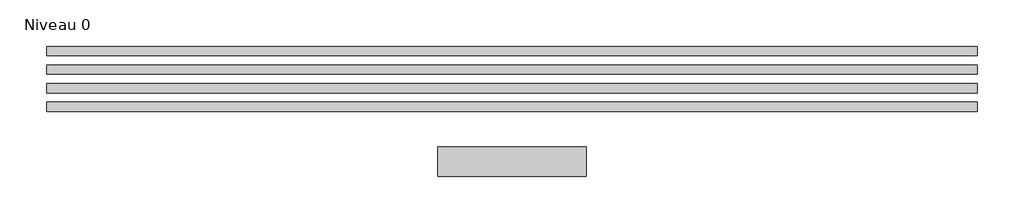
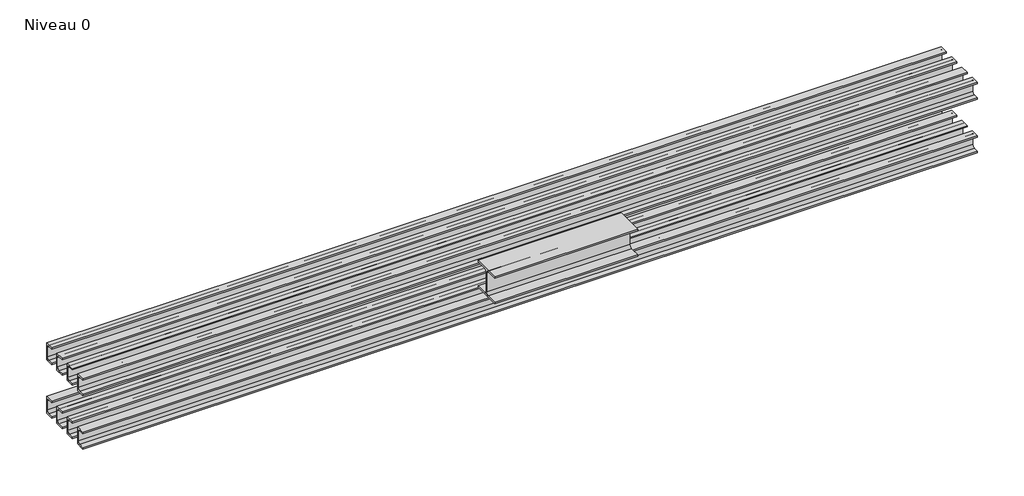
# One storey: 9 beams.
"""IFC4 building model written with IfcOpenShell, lengths in millimetres."""

import ifcopenshell
import ifcopenshell.guid

model = None  # the IFC model being written
_history = None  # IfcOwnerHistory: only IFC2X3 demands one
_inside = {}  # id of a spatial element -> (the spatial element, [elements in it])
_under = {}  # id of a project, library or spatial element -> (it, [spatial elements below it])
_declared = {}  # id of a project -> (the project, [libraries it declares])
_typed = {}  # id of a type object -> (the type object, [elements of that type])
_made_of = {}  # id of a material, layer set ... -> (it, [elements and type objects made of it])


def new_model(schema):
    """Start an empty IFC model of exactly this schema.

    Asked for "IFC4X3", IfcOpenShell would pick the latest addendum, in which some entities
    have other attributes; the version numbers below select the first issue.
    IFC2X3 requires an IfcOwnerHistory on every rooted entity: one is made here for all.
    """
    global model, _history
    if schema == "IFC4X3":
        model = ifcopenshell.file(schema_version=(4, 3, 0, 0))
    else:
        model = ifcopenshell.file(schema=schema)
    _inside.clear()
    _under.clear()
    _declared.clear()
    _typed.clear()
    _made_of.clear()
    _history = None
    if model.schema == "IFC2X3":
        org = make("IfcOrganization", Name="unknown")
        user = make(
            "IfcPersonAndOrganization",
            ThePerson=make("IfcPerson", FamilyName="unknown"),
            TheOrganization=org,
        )
        app = make(
            "IfcApplication",
            ApplicationDeveloper=org,
            Version="unknown",
            ApplicationFullName="unknown",
            ApplicationIdentifier="unknown",
        )
        _history = make(
            "IfcOwnerHistory",
            OwningUser=user,
            OwningApplication=app,
            ChangeAction="ADDED",
            CreationDate=0,
        )
    return model


def make(cls, **values):
    """One entity of the class cls with the attributes given. An attribute that is None is left unset."""
    return model.create_entity(
        cls, **{name: value for name, value in values.items() if value is not None}
    )


def rooted(cls, **values):
    """An entity with a GlobalId (a new one), such as an element, a storey or a relation."""
    return make(cls, GlobalId=ifcopenshell.guid.new(), OwnerHistory=_history, **values)


def si_unit(unit_type, name, prefix=None):
    """IfcSIUnit, for example si_unit("LENGTHUNIT", "METRE", prefix="MILLI")."""
    return make("IfcSIUnit", UnitType=unit_type, Prefix=prefix, Name=name)


def assignment(units):
    """IfcUnitAssignment: the units of a project."""
    return None if units is None else make("IfcUnitAssignment", Units=units)


def point(xyz):
    """IfcCartesianPoint."""
    return None if xyz is None else make("IfcCartesianPoint", Coordinates=xyz)


def direction(xyz):
    """IfcDirection."""
    return None if xyz is None else make("IfcDirection", DirectionRatios=xyz)


def frame(location, z_axis=None, x_axis=None):
    """IfcAxis2Placement3D, a coordinate frame: its origin and axes. An axis left out is left unset."""
    return make(
        "IfcAxis2Placement3D",
        Location=point(location),
        Axis=direction(z_axis),
        RefDirection=direction(x_axis),
    )


def frame_2d(location, x_axis=None):
    """IfcAxis2Placement2D, a coordinate frame in the plane: its origin and x axis."""
    return make(
        "IfcAxis2Placement2D", Location=point(location), RefDirection=direction(x_axis)
    )


def origin():
    """The frame at (0, 0, 0) with its axes left unset."""
    return frame((0.0, 0.0, 0.0))


def place(relative_to, where):
    """IfcLocalPlacement: puts the frame where relative to a parent placement (None: the world)."""
    return make(
        "IfcLocalPlacement", PlacementRelTo=relative_to, RelativePlacement=where
    )


def context(
    kind, dimensions, precision=None, world=None, true_north=None, identifier=None
):
    """IfcGeometricRepresentationContext, for example the 3D "Model" context."""
    return make(
        "IfcGeometricRepresentationContext",
        ContextIdentifier=identifier,
        ContextType=kind,
        CoordinateSpaceDimension=dimensions,
        Precision=precision,
        WorldCoordinateSystem=world,
        TrueNorth=true_north,
    )


def project(units=None, contexts=None):
    """IfcProject with its units and contexts."""
    return rooted(
        "IfcProject",
        Name="project",
        RepresentationContexts=contexts,
        UnitsInContext=assignment(units),
    )


def spatial(cls, under=None, at=None, **own):
    """A site, building, storey or space (cls), placed at a placement, below another one or the project."""
    s = rooted(cls, ObjectPlacement=at, **own)
    if under is not None:
        _under.setdefault(under.id(), (under, []))[1].append(s)
    return s


def polyline(points):
    """IfcPolyline through the points."""
    return make("IfcPolyline", Points=[point(p) for p in points])


def circle_curve(where, radius):
    """IfcCircle in the frame where."""
    return make("IfcCircle", Position=where, Radius=radius)


def trimmed(basis, trim1, trim2, sense, master):
    """IfcTrimmedCurve: the piece of a basis curve between two trims."""
    return make(
        "IfcTrimmedCurve",
        BasisCurve=basis,
        Trim1=trim1,
        Trim2=trim2,
        SenseAgreement=sense,
        MasterRepresentation=master,
    )


def segment(curve, same_sense, transition):
    """IfcCompositeCurveSegment."""
    return make(
        "IfcCompositeCurveSegment",
        Transition=transition,
        SameSense=same_sense,
        ParentCurve=curve,
    )


def composite_curve(segments, self_intersect=None):
    """IfcCompositeCurve: segments joined end to end."""
    return make("IfcCompositeCurve", Segments=segments, SelfIntersect=self_intersect)


def outline(outer, holes=None, kind="AREA"):
    """IfcArbitraryClosedProfileDef: a profile drawn as a closed curve; with holes, ...WithVoids."""
    if holes is None:
        return make("IfcArbitraryClosedProfileDef", ProfileType=kind, OuterCurve=outer)
    return make(
        "IfcArbitraryProfileDefWithVoids",
        ProfileType=kind,
        OuterCurve=outer,
        InnerCurves=holes,
    )


def extrude(swept, where, along, depth):
    """IfcExtrudedAreaSolid: the profile swept, set in the frame where, extruded along a direction by depth."""
    return make(
        "IfcExtrudedAreaSolid",
        SweptArea=swept,
        Position=where,
        ExtrudedDirection=direction(along),
        Depth=depth,
    )


def shape(context_of_items, identifier, shape_type, items):
    """IfcShapeRepresentation: the items that make up one representation, for example the "Body"."""
    return make(
        "IfcShapeRepresentation",
        ContextOfItems=context_of_items,
        RepresentationIdentifier=identifier,
        RepresentationType=shape_type,
        Items=items,
    )


def source(mapping_origin, context_of_items, identifier, shape_type, items):
    """IfcRepresentationMap: a shape defined once, which mapped items show again and again."""
    return make(
        "IfcRepresentationMap",
        MappingOrigin=mapping_origin,
        MappedRepresentation=shape(context_of_items, identifier, shape_type, items),
    )


def transform(
    local_origin,
    x_axis=None,
    y_axis=None,
    z_axis=None,
    scale=None,
    scale2=None,
    scale3=None,
    uniform=True,
):
    """IfcCartesianTransformationOperator3D, or its non-uniform kind. x_axis, y_axis, z_axis: its Axis1, 2, 3."""
    if uniform:
        return make(
            "IfcCartesianTransformationOperator3D",
            Axis1=direction(x_axis),
            Axis2=direction(y_axis),
            LocalOrigin=point(local_origin),
            Scale=scale,
            Axis3=direction(z_axis),
        )
    return make(
        "IfcCartesianTransformationOperator3DnonUniform",
        Axis1=direction(x_axis),
        Axis2=direction(y_axis),
        LocalOrigin=point(local_origin),
        Scale=scale,
        Axis3=direction(z_axis),
        Scale2=scale2,
        Scale3=scale3,
    )


def mapped(mapping_source, mapping_target):
    """IfcMappedItem: shows the shape of a source again, moved by a transform."""
    return make(
        "IfcMappedItem", MappingSource=mapping_source, MappingTarget=mapping_target
    )


def made_of(thing, what):
    """Note that an element or type object is made of a material, layer set ...; save() writes the relation."""
    if what is not None:
        _made_of.setdefault(what.id(), (what, []))[1].append(thing)
    return thing


def element(
    cls,
    number,
    at=None,
    inside=None,
    cuts=None,
    type_object=None,
    material=None,
    context=None,
    identifier="Body",
    shape_type=None,
    held_by="IfcProductDefinitionShape",
    body=None,
    shapes=None,
    **own,
):
    """One element of the class cls, such as IfcWall. Its Tag is "e" and its number.

    at: its placement. inside: the storey or other place that contains it. cuts: it is an
    opening in that element (IfcRelVoidsElement). A single representation is given by context,
    identifier, shape_type and body (its items); several are given by shapes. held_by: the class
    of the entity that holds the representations. save() writes the other relations.
    """
    e = rooted(cls, Tag="e%d" % number, ObjectPlacement=at, **own)
    if body is not None:
        shapes = [shape(context, identifier, shape_type, body)]
    if shapes is not None:
        e.Representation = make(held_by, Representations=shapes)
    if inside is not None:
        _inside.setdefault(inside.id(), (inside, []))[1].append(e)
    if cuts is not None:
        rooted(
            "IfcRelVoidsElement", RelatingBuildingElement=cuts, RelatedOpeningElement=e
        )
    if type_object is not None:
        _typed.setdefault(type_object.id(), (type_object, []))[1].append(e)
    return made_of(e, material)


def aggregate(whole, parts):
    """IfcRelAggregates: a whole, such as a stair, and the parts it consists of."""
    return rooted("IfcRelAggregates", RelatingObject=whole, RelatedObjects=parts)


def save(model, path):
    """Write the relations noted so far, then the file.

    IfcRelAggregates (storeys below a building ...), IfcRelContainedInSpatialStructure (elements
    in a storey), IfcRelDefinesByType, IfcRelAssociatesMaterial and IfcRelDeclares: one each for
    every whole, place, type object, material and project.
    """
    for whole, parts in _under.values():
        aggregate(whole, parts)
    for where, things in _inside.values():
        rooted(
            "IfcRelContainedInSpatialStructure",
            RelatedElements=things,
            RelatingStructure=where,
        )
    for kind, things in _typed.values():
        rooted("IfcRelDefinesByType", RelatedObjects=things, RelatingType=kind)
    for what, things in _made_of.values():
        rooted("IfcRelAssociatesMaterial", RelatedObjects=things, RelatingMaterial=what)
    for by, libraries in _declared.values():
        rooted("IfcRelDeclares", RelatingContext=by, RelatedDefinitions=libraries)
    model.write(path)


def poutre_hea_hea_160_e29c9bb7(model_context):
    return source(origin(), model_context, "Body", "SweptSolid", [
        extrude(outline(composite_curve([segment(polyline([(80.0, -71.0), (80.0, -80.0), (-80.0, -80.0), (-80.0, -71.0), (-18.0, -71.0)]), True, "CONTINUOUS"), segment(trimmed(circle_curve(frame_2d((-18.0, -56.0)), 15.0), [point((-18.0, -71.0))], [point((-3.0, -56.0))], True, "CARTESIAN"), True, "CONTINUOUS"), segment(polyline([(-3.0, -56.0), (-3.0, 56.0)]), True, "CONTINUOUS"), segment(trimmed(circle_curve(frame_2d((-18.0, 56.0)), 15.0), [point((-3.0, 56.0))], [point((-18.0, 71.0))], True, "CARTESIAN"), True, "CONTINUOUS"), segment(polyline([(-18.0, 71.0), (-80.0, 71.0), (-80.0, 80.0), (80.0, 80.0), (80.0, 71.0), (18.0, 71.0)]), True, "CONTINUOUS"), segment(trimmed(circle_curve(frame_2d((18.0, 56.0)), 15.0), [point((18.0, 71.0))], [point((3.0, 56.0))], True, "CARTESIAN"), True, "CONTINUOUS"), segment(polyline([(3.0, 56.0), (3.0, -56.0)]), True, "CONTINUOUS"), segment(trimmed(circle_curve(frame_2d((18.0, -56.0)), 15.0), [point((3.0, -56.0))], [point((18.0, -71.0))], True, "CARTESIAN"), True, "CONTINUOUS"), segment(polyline([(18.0, -71.0), (80.0, -71.0)]), True, "CONTINUOUS")], self_intersect=False)), frame((-400.0, 0.0, 0.0), z_axis=(1.0, 0.0, 0.0), x_axis=(0.0, 1.0, 0.0)), (0.0, 0.0, 1.0), 800.0),
    ])


def uap100_04143565(model_context):
    return source(origin(), model_context, "Body", "SweptSolid", [
        extrude(outline(composite_curve([segment(polyline([(17.0, 50.0), (17.0, -50.0), (-33.0, -50.0), (-33.0, -41.5), (-2.5, -41.5)]), True, "CONTINUOUS"), segment(trimmed(circle_curve(frame_2d((-2.5, -27.5)), 14.0), [point((-2.5, -41.5))], [point((11.5, -27.5))], True, "CARTESIAN"), True, "CONTINUOUS"), segment(polyline([(11.5, -27.5), (11.5, 27.5)]), True, "CONTINUOUS"), segment(trimmed(circle_curve(frame_2d((-2.5, 27.5)), 14.0), [point((11.5, 27.5))], [point((-2.5, 41.5))], True, "CARTESIAN"), True, "CONTINUOUS"), segment(polyline([(-2.5, 41.5), (-33.0, 41.5), (-33.0, 50.0), (17.0, 50.0)]), True, "CONTINUOUS")], self_intersect=False)), frame((-2499.5, 0.0, 0.0), z_axis=(1.0, 0.0, 0.0), x_axis=(0.0, 1.0, 0.0)), (0.0, 0.0, 1.0), 4999.0),
    ])


model = new_model("IFC4")

# Units and contexts
model_context = context("Model", 3, world=origin())
ifc_project = project(units=[si_unit("LENGTHUNIT", "METRE", prefix="MILLI")], contexts=[model_context])

# Site, building, storey
site = spatial("IfcSite", under=ifc_project)
building = spatial("IfcBuilding", under=site)
storey = spatial("IfcBuildingStorey", under=building, Name="Niveau 0", Elevation=0.0)

# Beams
placement = place(None, origin())
poutre_hea_hea_160_shape = poutre_hea_hea_160_e29c9bb7(model_context)
element("IfcBeam", 1, ObjectType="Poutre - HEA : HEA 160", at=placement, inside=storey, context=model_context, shape_type="MappedRepresentation", body=[
    mapped(poutre_hea_hea_160_shape, transform((-9526.52677, 2634.3007791, 0.0), x_axis=(1.0, 0.0, 0.0), y_axis=(0.0, 1.0, 0.0), z_axis=(0.0, 0.0, 1.0))),
])
uap100_shape = uap100_04143565(model_context)
element("IfcBeam", 2, ObjectType="U-Fers a ailes parallèles : UAP100", at=placement, inside=storey, context=model_context, shape_type="MappedRepresentation", body=[
    mapped(uap100_shape, transform((-9526.52677, 3237.3007791, -50.0), x_axis=(1.0, 0.0, 0.0), y_axis=(0.0, 1.0, 0.0), z_axis=(0.0, 0.0, 1.0))),
])
element("IfcBeam", 3, ObjectType="U-Fers a ailes parallèles : UAP100", at=placement, inside=storey, context=model_context, shape_type="MappedRepresentation", body=[
    mapped(uap100_shape, transform((-9526.52677, 3137.3007791, -50.0), x_axis=(1.0, 0.0, 0.0), y_axis=(0.0, 1.0, 0.0), z_axis=(0.0, 0.0, 1.0))),
])
element("IfcBeam", 4, ObjectType="U-Fers a ailes parallèles : UAP100", at=placement, inside=storey, context=model_context, shape_type="MappedRepresentation", body=[
    mapped(uap100_shape, transform((-9526.52677, 3037.3007791, -50.0), x_axis=(1.0, 0.0, 0.0), y_axis=(0.0, 1.0, 0.0), z_axis=(0.0, 0.0, 1.0))),
])
element("IfcBeam", 5, ObjectType="U-Fers a ailes parallèles : UAP100", at=placement, inside=storey, context=model_context, shape_type="MappedRepresentation", body=[
    mapped(uap100_shape, transform((-9526.52677, 2937.3007791, -50.0), x_axis=(1.0, 0.0, 0.0), y_axis=(0.0, 1.0, 0.0), z_axis=(0.0, 0.0, 1.0))),
])
element("IfcBeam", 6, ObjectType="U-Fers a ailes parallèles : UAP100", at=placement, inside=storey, context=model_context, shape_type="MappedRepresentation", body=[
    mapped(uap100_shape, transform((-9526.52677, 3237.3007791, -365.0), x_axis=(1.0, 0.0, 0.0), y_axis=(0.0, 1.0, 0.0), z_axis=(0.0, 0.0, 1.0))),
])
element("IfcBeam", 7, ObjectType="U-Fers a ailes parallèles : UAP100", at=placement, inside=storey, context=model_context, shape_type="MappedRepresentation", body=[
    mapped(uap100_shape, transform((-9526.52677, 3137.3007791, -365.0), x_axis=(1.0, 0.0, 0.0), y_axis=(0.0, 1.0, 0.0), z_axis=(0.0, 0.0, 1.0))),
])
element("IfcBeam", 8, ObjectType="U-Fers a ailes parallèles : UAP100", at=placement, inside=storey, context=model_context, shape_type="MappedRepresentation", body=[
    mapped(uap100_shape, transform((-9526.52677, 3037.3007791, -365.0), x_axis=(1.0, 0.0, 0.0), y_axis=(0.0, 1.0, 0.0), z_axis=(0.0, 0.0, 1.0))),
])
element("IfcBeam", 9, ObjectType="U-Fers a ailes parallèles : UAP100", at=placement, inside=storey, context=model_context, shape_type="MappedRepresentation", body=[
    mapped(uap100_shape, transform((-9526.52677, 2937.3007791, -365.0), x_axis=(1.0, 0.0, 0.0), y_axis=(0.0, 1.0, 0.0), z_axis=(0.0, 0.0, 1.0))),
])

save(model, "model.ifc")
